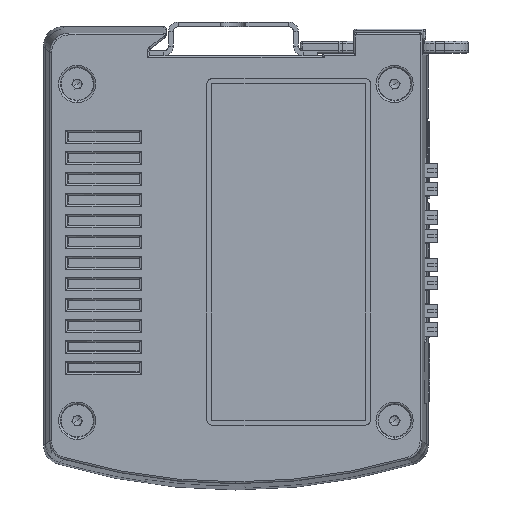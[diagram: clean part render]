
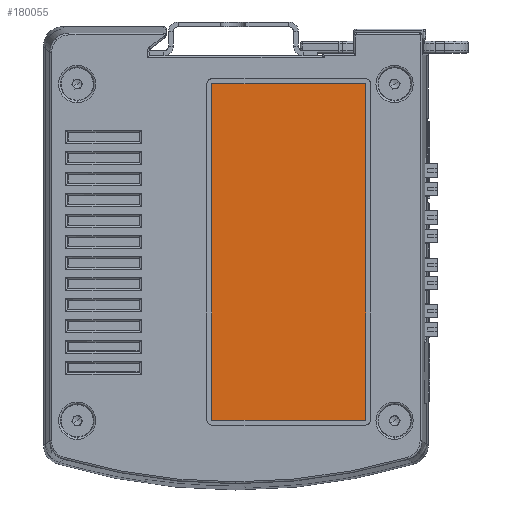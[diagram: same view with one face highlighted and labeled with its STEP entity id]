
A CAD part, left-side view. The second image highlights one B-rep face of the part: STEP entity #180055.
In plain terms, the highlighted planar face has unit normal (-1, 0, 0) as drawn and (0, 1, 0) by its records, which use the part's own axes.
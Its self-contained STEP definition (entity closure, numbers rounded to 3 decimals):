
#3563 = CARTESIAN_POINT ( 'NONE',  ( 35., 0.2, -16. ) ) ;
#5285 = VECTOR ( 'NONE', #173120, 1000. ) ;
#27757 = VECTOR ( 'NONE', #53745, 1000. ) ;
#30158 = CARTESIAN_POINT ( 'NONE',  ( -35., 0.2, -16. ) ) ;
#30415 = LINE ( 'NONE', #197659, #142604 ) ;
#33592 = LINE ( 'NONE', #30158, #103450 ) ;
#39658 = VERTEX_POINT ( 'NONE', #135271 ) ;
#45955 = EDGE_CURVE ( 'NONE', #99912, #203163, #33592, .T. ) ;
#53745 = DIRECTION ( 'NONE',  ( 0., 0., -1. ) ) ;
#55110 = FACE_OUTER_BOUND ( 'NONE', #71135, .T. ) ;
#55557 = DIRECTION ( 'NONE',  ( 0., 0., 1. ) ) ;
#61639 = DIRECTION ( 'NONE',  ( -1., 0., 0. ) ) ;
#63720 = EDGE_CURVE ( 'NONE', #168617, #99912, #120205, .T. ) ;
#71135 = EDGE_LOOP ( 'NONE', ( #193073, #96459, #75747, #103879 ) ) ;
#71880 = CARTESIAN_POINT ( 'NONE',  ( 35., 0.2, 16. ) ) ;
#75747 = ORIENTED_EDGE ( 'NONE', *, *, #178433, .T. ) ;
#93817 = DIRECTION ( 'NONE',  ( 0., 1., 0. ) ) ;
#96459 = ORIENTED_EDGE ( 'NONE', *, *, #45955, .T. ) ;
#99912 = VERTEX_POINT ( 'NONE', #158812 ) ;
#99926 = AXIS2_PLACEMENT_3D ( 'NONE', #112617, #93817, #157853 ) ;
#103450 = VECTOR ( 'NONE', #61639, 1000. ) ;
#103879 = ORIENTED_EDGE ( 'NONE', *, *, #130225, .T. ) ;
#112617 = CARTESIAN_POINT ( 'NONE',  ( 0., 0.2, 0. ) ) ;
#120205 = LINE ( 'NONE', #3563, #27757 ) ;
#130225 = EDGE_CURVE ( 'NONE', #39658, #168617, #189873, .T. ) ;
#135271 = CARTESIAN_POINT ( 'NONE',  ( -35., 0.2, 16. ) ) ;
#142604 = VECTOR ( 'NONE', #55557, 1000. ) ;
#143172 = PLANE ( 'NONE',  #99926 ) ;
#151807 = CARTESIAN_POINT ( 'NONE',  ( -35., 0.2, -16. ) ) ;
#157853 = DIRECTION ( 'NONE',  ( 0., 0., 1. ) ) ;
#158812 = CARTESIAN_POINT ( 'NONE',  ( 35., 0.2, -16. ) ) ;
#168617 = VERTEX_POINT ( 'NONE', #71880 ) ;
#172450 = CARTESIAN_POINT ( 'NONE',  ( -35., 0.2, 16. ) ) ;
#173120 = DIRECTION ( 'NONE',  ( 1., 0., 0. ) ) ;
#178433 = EDGE_CURVE ( 'NONE', #203163, #39658, #30415, .T. ) ;
#180055 = ADVANCED_FACE ( 'NONE', ( #55110 ), #143172, .T. ) ;
#189873 = LINE ( 'NONE', #172450, #5285 ) ;
#193073 = ORIENTED_EDGE ( 'NONE', *, *, #63720, .T. ) ;
#197659 = CARTESIAN_POINT ( 'NONE',  ( -35., 0.2, -16. ) ) ;
#203163 = VERTEX_POINT ( 'NONE', #151807 ) ;
